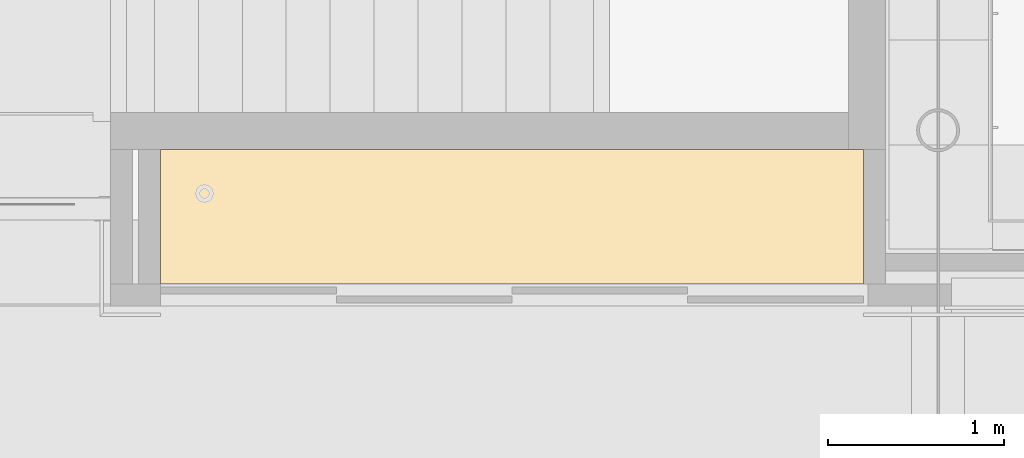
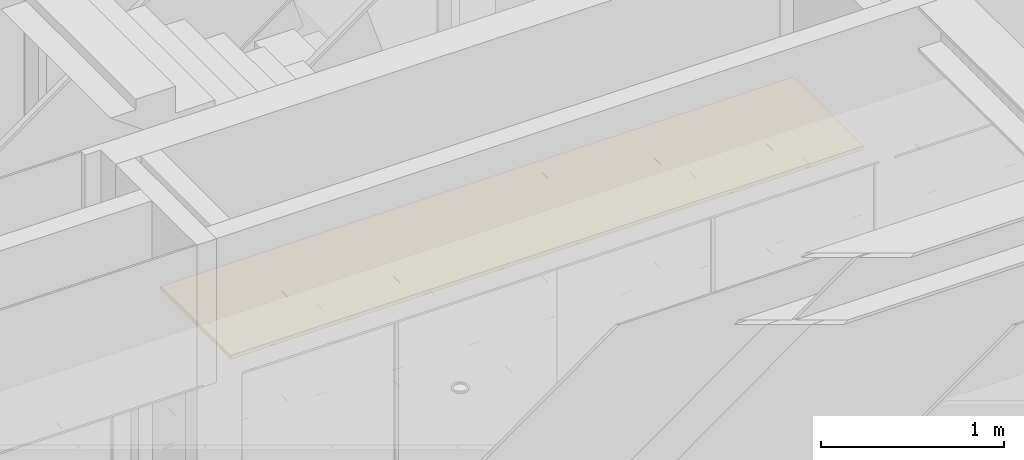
# One storey, part 165 of 347: 1 covering.
"""IFC2X3 building model written with IfcOpenShell, lengths in millimetres."""

import ifcopenshell
import ifcopenshell.guid

model = None  # the IFC model being written
_history = None  # IfcOwnerHistory: only IFC2X3 demands one
_inside = {}  # id of a spatial element -> (the spatial element, [elements in it])
_under = {}  # id of a project, library or spatial element -> (it, [spatial elements below it])
_declared = {}  # id of a project -> (the project, [libraries it declares])
_typed = {}  # id of a type object -> (the type object, [elements of that type])
_made_of = {}  # id of a material, layer set ... -> (it, [elements and type objects made of it])


def new_model(schema):
    """Start an empty IFC model of exactly this schema.

    Asked for "IFC4X3", IfcOpenShell would pick the latest addendum, in which some entities
    have other attributes; the version numbers below select the first issue.
    IFC2X3 requires an IfcOwnerHistory on every rooted entity: one is made here for all.
    """
    global model, _history
    if schema == "IFC4X3":
        model = ifcopenshell.file(schema_version=(4, 3, 0, 0))
    else:
        model = ifcopenshell.file(schema=schema)
    _inside.clear()
    _under.clear()
    _declared.clear()
    _typed.clear()
    _made_of.clear()
    _history = None
    if model.schema == "IFC2X3":
        org = make("IfcOrganization", Name="unknown")
        user = make(
            "IfcPersonAndOrganization",
            ThePerson=make("IfcPerson", FamilyName="unknown"),
            TheOrganization=org,
        )
        app = make(
            "IfcApplication",
            ApplicationDeveloper=org,
            Version="unknown",
            ApplicationFullName="unknown",
            ApplicationIdentifier="unknown",
        )
        _history = make(
            "IfcOwnerHistory",
            OwningUser=user,
            OwningApplication=app,
            ChangeAction="ADDED",
            CreationDate=0,
        )
    return model


def make(cls, **values):
    """One entity of the class cls with the attributes given. An attribute that is None is left unset."""
    return model.create_entity(
        cls, **{name: value for name, value in values.items() if value is not None}
    )


def entity(cls, *values):
    """Any entity or typed value of the class cls, its attributes in the order of the schema. None: left unset."""
    e = model.create_entity(cls)
    for i, value in enumerate(values):
        if value is not None:
            e[i] = value
    return e


def rooted(cls, **values):
    """An entity with a GlobalId (a new one), such as an element, a storey or a relation."""
    return make(cls, GlobalId=ifcopenshell.guid.new(), OwnerHistory=_history, **values)


def si_unit(unit_type, name, prefix=None):
    """IfcSIUnit, for example si_unit("LENGTHUNIT", "METRE", prefix="MILLI")."""
    return make("IfcSIUnit", UnitType=unit_type, Prefix=prefix, Name=name)


def converted_unit(unit_type, name, factor, base, dimensions=None, offset=None):
    """IfcConversionBasedUnit, such as the inch: factor (a typed value) times the base unit."""
    return make(
        "IfcConversionBasedUnit"
        if offset is None
        else "IfcConversionBasedUnitWithOffset",
        ConversionOffset=offset,
        Dimensions=None
        if dimensions is None
        else entity("IfcDimensionalExponents", *dimensions),
        UnitType=unit_type,
        Name=name,
        ConversionFactor=make(
            "IfcMeasureWithUnit", ValueComponent=factor, UnitComponent=base
        ),
    )


def derived_unit(unit_type, elements):
    """IfcDerivedUnit: a product of units, each with its exponent."""
    return make(
        "IfcDerivedUnit",
        Elements=[
            make("IfcDerivedUnitElement", Unit=unit, Exponent=power)
            for unit, power in elements
        ],
        UnitType=unit_type,
    )


def money_unit(currency):
    """IfcMonetaryUnit."""
    return make("IfcMonetaryUnit", Currency=currency)


def assignment(units):
    """IfcUnitAssignment: the units of a project."""
    return None if units is None else make("IfcUnitAssignment", Units=units)


def point(xyz):
    """IfcCartesianPoint."""
    return None if xyz is None else make("IfcCartesianPoint", Coordinates=xyz)


def direction(xyz):
    """IfcDirection."""
    return None if xyz is None else make("IfcDirection", DirectionRatios=xyz)


def frame(location, z_axis=None, x_axis=None):
    """IfcAxis2Placement3D, a coordinate frame: its origin and axes. An axis left out is left unset."""
    return make(
        "IfcAxis2Placement3D",
        Location=point(location),
        Axis=direction(z_axis),
        RefDirection=direction(x_axis),
    )


def origin_with_axes():
    """The frame at (0, 0, 0) with the z axis (0, 0, 1) and the x axis (1, 0, 0) written out."""
    return frame((0.0, 0.0, 0.0), z_axis=(0.0, 0.0, 1.0), x_axis=(1.0, 0.0, 0.0))


def place(relative_to, where):
    """IfcLocalPlacement: puts the frame where relative to a parent placement (None: the world)."""
    return make(
        "IfcLocalPlacement", PlacementRelTo=relative_to, RelativePlacement=where
    )


def context(
    kind, dimensions, precision=None, world=None, true_north=None, identifier=None
):
    """IfcGeometricRepresentationContext, for example the 3D "Model" context."""
    return make(
        "IfcGeometricRepresentationContext",
        ContextIdentifier=identifier,
        ContextType=kind,
        CoordinateSpaceDimension=dimensions,
        Precision=precision,
        WorldCoordinateSystem=world,
        TrueNorth=true_north,
    )


def subcontext(parent, identifier, kind, view, scale=None):
    """IfcGeometricRepresentationSubContext, for example "Body" below "Model"."""
    return make(
        "IfcGeometricRepresentationSubContext",
        ContextIdentifier=identifier,
        ContextType=kind,
        ParentContext=parent,
        TargetScale=scale,
        TargetView=view,
    )


def project(units=None, contexts=None):
    """IfcProject with its units and contexts."""
    return rooted(
        "IfcProject",
        Name="project",
        RepresentationContexts=contexts,
        UnitsInContext=assignment(units),
    )


def spatial(cls, under=None, at=None, **own):
    """A site, building, storey or space (cls), placed at a placement, below another one or the project."""
    s = rooted(cls, ObjectPlacement=at, **own)
    if under is not None:
        _under.setdefault(under.id(), (under, []))[1].append(s)
    return s


def faces_of(points, faces, orient=None, outer=None):
    """IfcFace entities. A face is a list of loops; a loop is a list of indices into points, from 0.

    orient and outer hold one flag for each loop. By default every Orientation is true, the
    first loop of a face is its IfcFaceOuterBound and the others are IfcFaceBound.
    """
    made = []
    for i, loops in enumerate(faces):
        bounds = []
        for j, loop in enumerate(loops):
            is_outer = j == 0 if outer is None else outer[i][j]
            bounds.append(
                make(
                    "IfcFaceOuterBound" if is_outer else "IfcFaceBound",
                    Bound=make("IfcPolyLoop", Polygon=[points[k] for k in loop]),
                    Orientation=True if orient is None else orient[i][j],
                )
            )
        made.append(make("IfcFace", Bounds=bounds))
    return made


def faceted_brep(points, faces, orient=None, outer=None, voids=None):
    """IfcFacetedBrep: a solid bounded by flat faces; with voids (closed shells), ...WithVoids."""
    shared = [point(p) for p in points]
    hull = make("IfcClosedShell", CfsFaces=faces_of(shared, faces, orient, outer))
    if voids is None:
        return make("IfcFacetedBrep", Outer=hull)
    return make(
        "IfcFacetedBrepWithVoids",
        Outer=hull,
        Voids=[
            make(cls, CfsFaces=faces_of(shared, fs, o, b)) for cls, fs, o, b in voids
        ],
    )


def shape(context_of_items, identifier, shape_type, items):
    """IfcShapeRepresentation: the items that make up one representation, for example the "Body"."""
    return make(
        "IfcShapeRepresentation",
        ContextOfItems=context_of_items,
        RepresentationIdentifier=identifier,
        RepresentationType=shape_type,
        Items=items,
    )


def made_of(thing, what):
    """Note that an element or type object is made of a material, layer set ...; save() writes the relation."""
    if what is not None:
        _made_of.setdefault(what.id(), (what, []))[1].append(thing)
    return thing


def type_object(cls, material=None, **own):
    """A type object (cls), such as IfcWallType, which elements share."""
    return made_of(rooted(cls, **own), material)


def element(
    cls,
    number,
    at=None,
    inside=None,
    cuts=None,
    type_object=None,
    material=None,
    context=None,
    identifier="Body",
    shape_type=None,
    held_by="IfcProductDefinitionShape",
    body=None,
    shapes=None,
    **own,
):
    """One element of the class cls, such as IfcWall. Its Tag is "e" and its number.

    at: its placement. inside: the storey or other place that contains it. cuts: it is an
    opening in that element (IfcRelVoidsElement). A single representation is given by context,
    identifier, shape_type and body (its items); several are given by shapes. held_by: the class
    of the entity that holds the representations. save() writes the other relations.
    """
    e = rooted(cls, Tag="e%d" % number, ObjectPlacement=at, **own)
    if body is not None:
        shapes = [shape(context, identifier, shape_type, body)]
    if shapes is not None:
        e.Representation = make(held_by, Representations=shapes)
    if inside is not None:
        _inside.setdefault(inside.id(), (inside, []))[1].append(e)
    if cuts is not None:
        rooted(
            "IfcRelVoidsElement", RelatingBuildingElement=cuts, RelatedOpeningElement=e
        )
    if type_object is not None:
        _typed.setdefault(type_object.id(), (type_object, []))[1].append(e)
    return made_of(e, material)


def aggregate(whole, parts):
    """IfcRelAggregates: a whole, such as a stair, and the parts it consists of."""
    return rooted("IfcRelAggregates", RelatingObject=whole, RelatedObjects=parts)


def save(model, path):
    """Write the relations noted so far, then the file.

    IfcRelAggregates (storeys below a building ...), IfcRelContainedInSpatialStructure (elements
    in a storey), IfcRelDefinesByType, IfcRelAssociatesMaterial and IfcRelDeclares: one each for
    every whole, place, type object, material and project.
    """
    for whole, parts in _under.values():
        aggregate(whole, parts)
    for where, things in _inside.values():
        rooted(
            "IfcRelContainedInSpatialStructure",
            RelatedElements=things,
            RelatingStructure=where,
        )
    for kind, things in _typed.values():
        rooted("IfcRelDefinesByType", RelatedObjects=things, RelatingType=kind)
    for what, things in _made_of.values():
        rooted("IfcRelAssociatesMaterial", RelatedObjects=things, RelatingMaterial=what)
    for by, libraries in _declared.values():
        rooted("IfcRelDeclares", RelatingContext=by, RelatedDefinitions=libraries)
    model.write(path)


model = new_model("IFC2X3")

# Units and contexts
model_context = context("Model", 3, precision=0.01, world=origin_with_axes(), true_north=direction((0.0, 1.0)))
plan_context = context("Plan", 3, precision=0.01, world=origin_with_axes(), true_north=direction((0.0, 1.0)))
body_context = subcontext(model_context, "Body", "Model", "MODEL_VIEW")
ifc_project = project(units=[si_unit("LENGTHUNIT", "METRE", prefix="MILLI"), si_unit("AREAUNIT", "SQUARE_METRE"), si_unit("VOLUMEUNIT", "CUBIC_METRE"), converted_unit("PLANEANGLEUNIT", "DEGREE", entity("IfcPlaneAngleMeasure", 0.0174532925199), si_unit("PLANEANGLEUNIT", "RADIAN"), dimensions=[0, 0, 0, 0, 0, 0, 0]), money_unit("EUR"), converted_unit("TIMEUNIT", "Year", entity("IfcTimeMeasure", 31556926.0), si_unit("TIMEUNIT", "SECOND"), dimensions=[0, 0, 1, 0, 0, 0, 0]), si_unit("MASSUNIT", "GRAM", prefix="KILO"), si_unit("THERMODYNAMICTEMPERATUREUNIT", "DEGREE_CELSIUS"), si_unit("LUMINOUSINTENSITYUNIT", "LUMEN"), si_unit("ENERGYUNIT", "JOULE", prefix="MEGA"), derived_unit("THERMALCONDUCTANCEUNIT", [(si_unit("POWERUNIT", "WATT"), 1), (si_unit("LENGTHUNIT", "METRE"), -1), (si_unit("THERMODYNAMICTEMPERATUREUNIT", "KELVIN"), -1)]), derived_unit("SPECIFICHEATCAPACITYUNIT", [(si_unit("ENERGYUNIT", "JOULE"), 1), (si_unit("MASSUNIT", "GRAM", prefix="KILO"), -1), (si_unit("THERMODYNAMICTEMPERATUREUNIT", "KELVIN"), -1)]), derived_unit("MASSDENSITYUNIT", [(si_unit("MASSUNIT", "GRAM", prefix="KILO"), 1), (si_unit("VOLUMEUNIT", "CUBIC_METRE"), -1)])], contexts=[model_context, plan_context])

# Site, building, storey
site_placement = place(None, origin_with_axes())
site = spatial("IfcSite", under=ifc_project, at=site_placement, Name="Site", CompositionType="ELEMENT")
building_placement = place(site_placement, origin_with_axes())
building = spatial("IfcBuilding", under=site, at=building_placement, Name="Naam gebouw", CompositionType="ELEMENT")
storey_placement = place(building_placement, origin_with_axes())
storey = spatial("IfcBuildingStorey", under=building, at=storey_placement, Name="begane grond", CompositionType="ELEMENT", Elevation=0.0)

# Covering
covering_type = type_object("IfcCoveringType", Name="Ceiling Editor INT_v2.01", PredefinedType="CEILING")
covering_placement = place(storey_placement, frame((20150.0, 14525.0, 2627.0), z_axis=(0.0, 0.0, 1.0), x_axis=(1.0, 0.0, 0.0)))
element("IfcCovering", 1, at=covering_placement, inside=storey, type_object=covering_type, Name="45 Plafondafwerkingen_77 garderobe", PredefinedType="CEILING", context=body_context, shape_type="Brep", body=[
    faceted_brep([(549.9, 765.0, 0.0), (549.9, 765.0, 20.0), (549.9, 0.100000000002, 20.0), (549.9, 0.100000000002, 0.0), (0.0, 765.0, 0.0), (0.0, 765.0, 20.0), (0.0, 191.25, 20.0), (0.0, 0.100000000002, 20.0), (0.0, 573.75, 20.0), (0.0, 382.5, 20.0), (0.0, 0.100000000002, 0.0), (0.0, 191.25, 0.0), (0.0, 382.5, 0.0), (0.0, 573.75, 0.0)], [[[0, 1, 2, 3]], [[1, 0, 4, 5]], [[6, 7, 2, 1, 5, 8, 9]], [[7, 10, 3, 2]], [[4, 0, 3, 10, 11, 12, 13]], [[8, 5, 4, 13]], [[7, 6, 11, 10]], [[9, 8, 13, 12]], [[6, 9, 12, 11]]]),
    faceted_brep([(1149.9, 765.0, 0.0), (1149.9, 765.0, 20.0), (1149.9, 0.100000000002, 20.0), (1149.9, 0.100000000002, 0.0), (1000.0, 765.0, 0.0), (1000.0, 765.0, 20.0), (550.1, 765.0, 20.0), (550.1, 0.100000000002, 20.0), (550.1, 0.100000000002, 0.0), (550.1, 765.0, 0.0)], [[[0, 1, 2, 3]], [[1, 0, 4, 5]], [[5, 6, 7, 2, 1]], [[7, 8, 3, 2]], [[4, 0, 3, 8, 9]], [[6, 5, 4, 9]], [[6, 9, 8, 7]]]),
    faceted_brep([(1749.9, 765.0, 0.0), (1749.9, 765.0, 20.0), (1749.9, 0.100000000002, 20.0), (1749.9, 0.100000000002, 0.0), (1150.1, 765.0, 0.0), (1150.1, 765.0, 20.0), (1150.1, 0.100000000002, 20.0), (1150.1, 0.100000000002, 0.0)], [[[0, 1, 2, 3]], [[1, 0, 4, 5]], [[1, 5, 6, 2]], [[6, 7, 3, 2]], [[4, 0, 3, 7]], [[5, 4, 7, 6]]]),
    faceted_brep([(2349.9, 765.0, 0.0), (2349.9, 765.0, 20.0), (2349.9, 0.100000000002, 20.0), (2349.9, 0.100000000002, 0.0), (2000.0, 765.0, 0.0), (2000.0, 765.0, 20.0), (1750.1, 765.0, 20.0), (1750.1, 0.100000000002, 20.0), (1750.1, 0.100000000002, 0.0), (1750.1, 765.0, 0.0)], [[[0, 1, 2, 3]], [[1, 0, 4, 5]], [[5, 6, 7, 2, 1]], [[7, 8, 3, 2]], [[4, 0, 3, 8, 9]], [[6, 5, 4, 9]], [[6, 9, 8, 7]]]),
    faceted_brep([(2949.9, 765.0, 0.0), (2949.9, 765.0, 20.0), (2949.9, 0.100000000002, 20.0), (2949.9, 0.100000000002, 0.0), (2350.1, 765.0, 0.0), (2350.1, 765.0, 20.0), (2350.1, 0.100000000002, 20.0), (2350.1, 0.100000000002, 0.0)], [[[0, 1, 2, 3]], [[1, 0, 4, 5]], [[1, 5, 6, 2]], [[6, 7, 3, 2]], [[4, 0, 3, 7]], [[5, 4, 7, 6]]]),
    faceted_brep([(3549.9, 765.0, 0.0), (3549.9, 765.0, 20.0), (3549.9, 0.100000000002, 20.0), (3549.9, 0.100000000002, 0.0), (3000.0, 765.0, 0.0), (3000.0, 765.0, 20.0), (2950.1, 765.0, 20.0), (2950.1, 0.100000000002, 20.0), (2950.1, 0.100000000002, 0.0), (2950.1, 765.0, 0.0)], [[[0, 1, 2, 3]], [[1, 0, 4, 5]], [[5, 6, 7, 2, 1]], [[7, 8, 3, 2]], [[4, 0, 3, 8, 9]], [[6, 5, 4, 9]], [[6, 9, 8, 7]]]),
    faceted_brep([(4000.0, 573.75, 20.0), (4000.0, 765.0, 20.0), (3550.1, 765.0, 20.0), (3550.1, 0.100000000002, 20.0), (4000.0, 0.100000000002, 20.0), (4000.0, 191.25, 20.0), (4000.0, 382.5, 20.0), (4000.0, 573.75, 0.0), (4000.0, 765.0, 0.0), (3550.1, 765.0, 0.0), (3550.1, 0.100000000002, 0.0), (4000.0, 0.100000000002, 0.0), (4000.0, 191.25, 0.0), (4000.0, 382.5, 0.0)], [[[0, 1, 2, 3, 4, 5, 6]], [[1, 0, 7, 8]], [[2, 1, 8, 9]], [[2, 9, 10, 3]], [[11, 4, 3, 10]], [[5, 4, 11, 12]], [[6, 5, 12, 13]], [[0, 6, 13, 7]], [[12, 11, 10, 9, 8, 7, 13]]]),
    faceted_brep([(1137.5, 25.0, -5.0), (1137.5, 25.0, 0.0), (1137.5, 740.0, 0.0), (1137.5, 740.0, -5.0), (562.5, 25.0, -5.0), (562.5, 25.0, 0.0), (4000.0, 765.0, 0.0), (3562.5, 765.0, 0.0), (3537.5, 765.0, 0.0), (2962.5, 765.0, 0.0), (2937.5, 765.0, 0.0), (2362.5, 765.0, 0.0), (2337.5, 765.0, 0.0), (1762.5, 765.0, 0.0), (1737.5, 765.0, 0.0), (1162.5, 765.0, 0.0), (1137.5, 765.0, 0.0), (562.5, 765.0, 0.0), (537.5, 765.0, 0.0), (0.0, 765.0, 0.0), (0.0, 12.5, 0.0), (0.0, 0.0, 0.0), (1000.0, 0.0, 0.0), (2000.0, 0.0, 0.0), (3000.0, 0.0, 0.0), (4000.0, 0.0, 0.0), (4000.0, 12.5, 0.0), (537.5, 740.0, 0.0), (537.5, 25.0, 0.0), (25.0, 25.0, 0.0), (25.0, 740.0, 0.0), (562.5, 740.0, 0.0), (1737.5, 25.0, 0.0), (1162.5, 25.0, 0.0), (1162.5, 740.0, 0.0), (1737.5, 740.0, 0.0), (1762.5, 25.0, 0.0), (1762.5, 740.0, 0.0), (2337.5, 740.0, 0.0), (2337.5, 25.0, 0.0), (2937.5, 25.0, 0.0), (2362.5, 25.0, 0.0), (2362.5, 740.0, 0.0), (2937.5, 740.0, 0.0), (2962.5, 25.0, 0.0), (2962.5, 740.0, 0.0), (3537.5, 740.0, 0.0), (3537.5, 25.0, 0.0), (3975.0, 25.0, 0.0), (3562.5, 25.0, 0.0), (3562.5, 740.0, 0.0), (3975.0, 740.0, 0.0), (562.5, 740.0, -5.0), (4000.0, 12.5, -5.0), (4000.0, 0.0, -5.0), (3000.0, 0.0, -5.0), (2000.0, 0.0, -5.0), (1000.0, 0.0, -5.0), (0.0, 0.0, -5.0), (0.0, 12.5, -5.0), (0.0, 765.0, -5.0), (537.5, 765.0, -5.0), (562.5, 765.0, -5.0), (1137.5, 765.0, -5.0), (1162.5, 765.0, -5.0), (1737.5, 765.0, -5.0), (1762.5, 765.0, -5.0), (2337.5, 765.0, -5.0), (2362.5, 765.0, -5.0), (2937.5, 765.0, -5.0), (2962.5, 765.0, -5.0), (3537.5, 765.0, -5.0), (3562.5, 765.0, -5.0), (4000.0, 765.0, -5.0), (537.5, 740.0, -5.0), (25.0, 740.0, -5.0), (25.0, 25.0, -5.0), (537.5, 25.0, -5.0), (1737.5, 25.0, -5.0), (1737.5, 740.0, -5.0), (1162.5, 740.0, -5.0), (1162.5, 25.0, -5.0), (2337.5, 25.0, -5.0), (2337.5, 740.0, -5.0), (1762.5, 740.0, -5.0), (1762.5, 25.0, -5.0), (2937.5, 25.0, -5.0), (2937.5, 740.0, -5.0), (2362.5, 740.0, -5.0), (2362.5, 25.0, -5.0), (3537.5, 25.0, -5.0), (3537.5, 740.0, -5.0), (2962.5, 740.0, -5.0), (2962.5, 25.0, -5.0), (3975.0, 25.0, -5.0), (3975.0, 740.0, -5.0), (3562.5, 740.0, -5.0), (3562.5, 25.0, -5.0)], [[[0, 1, 2, 3]], [[1, 0, 4, 5]], [[6, 7, 8, 9, 10, 11, 12, 13, 14, 15, 16, 17, 18, 19, 20, 21, 22, 23, 24, 25, 26], [27, 28, 29, 30], [1, 5, 31, 2], [32, 33, 34, 35], [36, 37, 38, 39], [40, 41, 42, 43], [44, 45, 46, 47], [48, 49, 50, 51]], [[3, 2, 31, 52]], [[53, 54, 55, 56, 57, 58, 59, 60, 61, 62, 63, 64, 65, 66, 67, 68, 69, 70, 71, 72, 73], [74, 75, 76, 77], [0, 3, 52, 4], [78, 79, 80, 81], [82, 83, 84, 85], [86, 87, 88, 89], [90, 91, 92, 93], [94, 95, 96, 97]], [[52, 31, 5, 4]], [[6, 73, 72, 71, 70, 69, 68, 67, 66, 65, 64, 63, 62, 61, 60, 19, 18, 17, 16, 15, 14, 13, 12, 11, 10, 9, 8, 7]], [[19, 60, 59, 58, 21, 20]], [[57, 22, 21, 58]], [[56, 23, 22, 57]], [[55, 24, 23, 56]], [[54, 25, 24, 55]], [[53, 73, 6, 26, 25, 54]], [[27, 74, 77, 28]], [[76, 29, 28, 77]], [[75, 30, 29, 76]], [[74, 27, 30, 75]], [[32, 78, 81, 33]], [[33, 81, 80, 34]], [[79, 35, 34, 80]], [[78, 32, 35, 79]], [[36, 85, 84, 37]], [[83, 38, 37, 84]], [[82, 39, 38, 83]], [[36, 39, 82, 85]], [[40, 86, 89, 41]], [[41, 89, 88, 42]], [[87, 43, 42, 88]], [[86, 40, 43, 87]], [[44, 93, 92, 45]], [[91, 46, 45, 92]], [[90, 47, 46, 91]], [[44, 47, 90, 93]], [[48, 94, 97, 49]], [[49, 97, 96, 50]], [[95, 51, 50, 96]], [[94, 48, 51, 95]]]),
])

save(model, "model.ifc")
